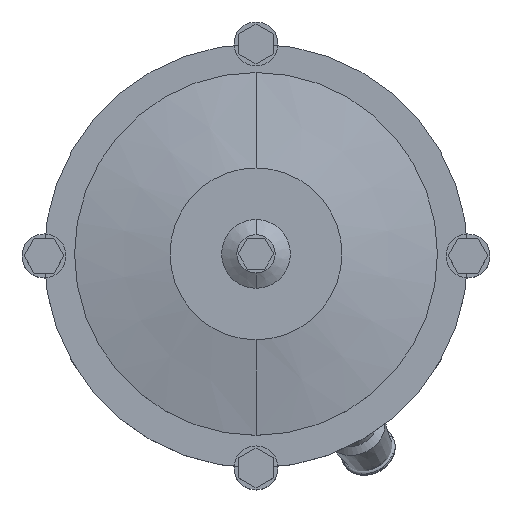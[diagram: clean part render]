
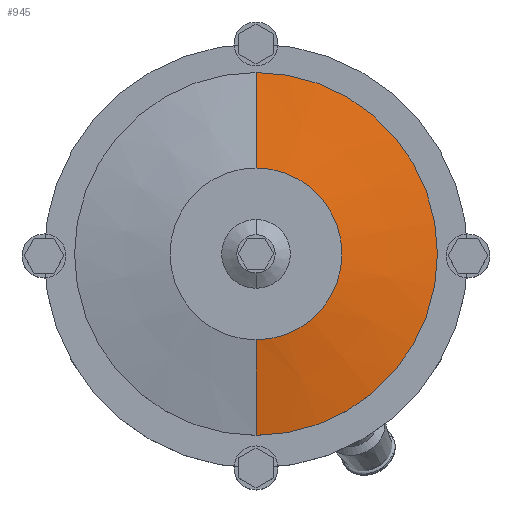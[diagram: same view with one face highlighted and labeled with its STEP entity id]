
A CAD part, top view. The second image highlights one B-rep face of the part: STEP entity #945.
In plain terms, the highlighted conical face has half-angle 78.69 degrees and reference radius 70 mm.
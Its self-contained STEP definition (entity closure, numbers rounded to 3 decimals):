
#945=ADVANCED_FACE('',(#1700),#1701,.T.);
#1700=FACE_OUTER_BOUND('',#2531,.T.);
#1701=CONICAL_SURFACE('',#2532,70.0,1.373);
#2531=EDGE_LOOP('',(#3892,#3893,#3894,#3895));
#2532=AXIS2_PLACEMENT_3D('',#3896,#3897,#3898);
#3892=ORIENTED_EDGE('',*,*,#4765,.F.);
#3893=ORIENTED_EDGE('',*,*,#4766,.F.);
#3894=ORIENTED_EDGE('',*,*,#4767,.F.);
#3895=ORIENTED_EDGE('',*,*,#4382,.F.);
#3896=CARTESIAN_POINT('',(0.0,0.,735.0));
#3897=DIRECTION('',(-0.0,0.,-1.0));
#3898=DIRECTION('',(0.0,-1.0,0.));
#4382=EDGE_CURVE('',#5097,#5098,#5099,.T.);
#4765=EDGE_CURVE('',#5608,#5097,#5609,.T.);
#4766=EDGE_CURVE('',#5610,#5608,#5611,.T.);
#4767=EDGE_CURVE('',#5098,#5610,#5612,.T.);
#5097=VERTEX_POINT('',#6027);
#5098=VERTEX_POINT('',#6028);
#5099=CIRCLE('',#6029,45.0);
#5608=VERTEX_POINT('',#6678);
#5609=LINE('',#6679,#6680);
#5610=VERTEX_POINT('',#6681);
#5611=CIRCLE('',#6682,95.0);
#5612=LINE('',#6683,#6684);
#6027=CARTESIAN_POINT('',(0.0,-45.0,740.0));
#6028=CARTESIAN_POINT('',(0.,45.0,740.0));
#6029=AXIS2_PLACEMENT_3D('',#6940,#6941,#6942);
#6678=CARTESIAN_POINT('',(0.0,-95.0,730.0));
#6679=CARTESIAN_POINT('',(0.,-70.0,735.0));
#6680=VECTOR('',#7365,1.0);
#6681=CARTESIAN_POINT('',(0.,95.0,730.0));
#6682=AXIS2_PLACEMENT_3D('',#7366,#7367,#7368);
#6683=CARTESIAN_POINT('',(0.,70.0,735.0));
#6684=VECTOR('',#7369,1.0);
#6940=CARTESIAN_POINT('',(0.0,0.,740.0));
#6941=DIRECTION('',(0.0,0.,1.0));
#6942=DIRECTION('',(0.0,-1.0,0.));
#7365=DIRECTION('',(0.,0.981,0.196));
#7366=CARTESIAN_POINT('',(0.0,0.0,730.0));
#7367=DIRECTION('',(0.0,0.,-1.0));
#7368=DIRECTION('',(0.0,-1.0,0.));
#7369=DIRECTION('',(0.,0.981,-0.196));
